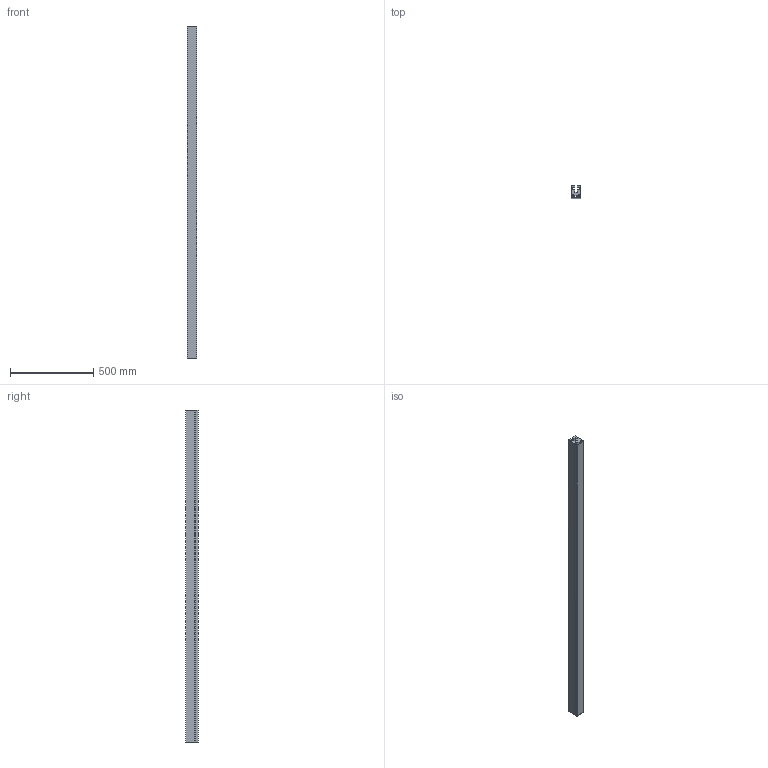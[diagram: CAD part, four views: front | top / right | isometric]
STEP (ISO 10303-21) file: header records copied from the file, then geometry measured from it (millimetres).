
FILE_DESCRIPTION (( 'STEP AP214' ), '1' );
FILE_NAME ('GHEL13SS.STEP', '2024-01-24T09:51:50', ( '' ), ( '' ), 'SwSTEP 2.0', 'SolidWorks 2022', '' );
FILE_SCHEMA (( 'AUTOMOTIVE_DESIGN' ));
Length unit declared in the file: millimetre
Products named in the file (3): GHEL13.SG_GHEL 10; GHEL13SS; C6020
Assembly tree (2 placements, depth 2):
  GHEL13SS
    GHEL13.SG_GHEL 10
    C6020
Bounding box: 60 x 75 x 2000 mm (x, y, z)
Volume: 5673283.2 mm3; surface area: 1328553.4 mm2
Topology: 2 solids, 2 shells, 48 faces, 132 edges, 88 vertices
Faces by surface type: plane 44, cylinder 4
Entity records: 1614 total; most frequent: CARTESIAN_POINT 273, ORIENTED_EDGE 264, DIRECTION 246, EDGE_CURVE 132, VECTOR 124, LINE 124, VERTEX_POINT 88, AXIS2_PLACEMENT_3D 61
